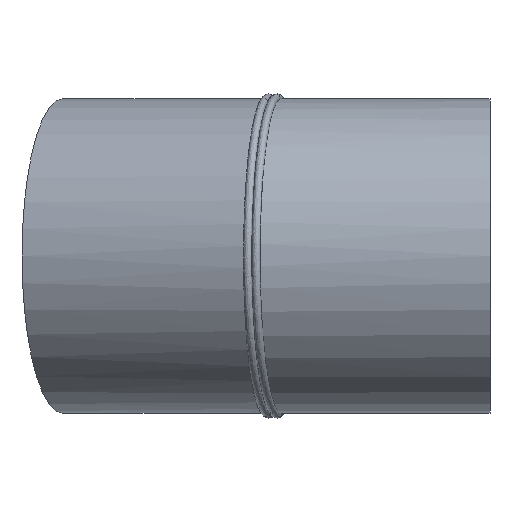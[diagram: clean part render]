
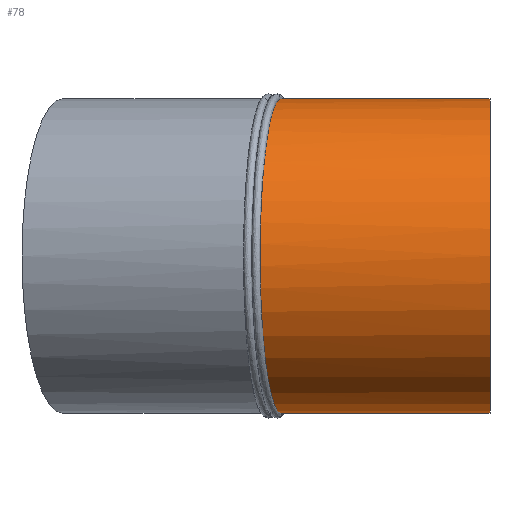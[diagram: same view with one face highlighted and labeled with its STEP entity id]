
A CAD part, left-side view. The second image highlights one B-rep face of the part: STEP entity #78.
In plain terms, the highlighted cylindrical face has radius 280 mm (diameter 560 mm), a full revolution.
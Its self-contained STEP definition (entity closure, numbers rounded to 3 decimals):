
#32=B_SPLINE_CURVE_WITH_KNOTS('',3,(#131,#132,#133,#134,#135,#136,#137,
#138,#139,#140,#141,#142,#143,#144,#145,#146,#147,#148,#149,#150,#151,#152,
#153,#154,#155,#156,#157,#158,#159,#160,#161,#162,#163,#164,#165,#166,#167,
#168,#169,#170,#171,#172,#173,#174,#175,#176,#177,#178,#179,#180,#181,#182,
#183,#184,#185,#186,#187,#188,#189,#190,#191,#192,#193,#194,#195,#196,#197,
#198,#199,#200,#201,#202,#203,#204,#205,#206,#207,#208,#209,#210,#211,#212,
#213,#214,#215,#216,#217,#218,#219,#220,#221,#222,#223,#224,#225,#226,#227,
#228),.UNSPECIFIED.,.T.,.F.,(1,1,1,1,1,1,1,1,1,1,1,1,1,1,1,1,1,1,1,1,1,
1,1,1,1,1,1,1,1,1,1,1,1,1,1,1,1,1,1,1,1,1,1,1,1,1,1,1,1,1,1,1,1,1,1,1,1,
1,1,1,1,1,1,1,1,1,1,1,1,1,1,1,1,1,1,1,1,1,1,1,1,1,1,1,1,1,1,1,1,1,1,1,1,
1,1,1,1,1,1,1,1,1),(-0.055,-0.028,-0.014,
0.,0.028,0.055,0.069,
0.083,0.111,0.139,0.166,
0.194,0.208,0.222,0.236,
0.25,0.263,0.277,0.305,
0.319,0.333,0.347,0.36,
0.374,0.388,0.402,0.416,
0.444,0.458,0.471,0.499,
0.527,0.541,0.555,0.582,
0.61,0.624,0.638,0.652,0.665,
0.679,0.693,0.721,0.735,
0.749,0.776,0.804,0.818,
0.832,0.86,0.887,0.915,
0.929,0.943,0.957,0.97,
0.984,0.998,1.026,1.054,1.068,
1.081,1.109,1.137,1.151,1.165,
1.192,1.22,1.248,1.262,1.275,
1.303,1.317,1.331,1.345,1.359,
1.386,1.4,1.414,1.442,1.47,
1.483,1.497,1.525,1.539,1.553,
1.567,1.58,1.594,1.608,1.622,
1.636,1.664,1.678,1.691,1.719,
1.747,1.761,1.775,1.802,1.83,
1.844),.UNSPECIFIED.);
#34=ORIENTED_EDGE('',*,*,#44,.T.);
#35=ORIENTED_EDGE('',*,*,#45,.F.);
#44=EDGE_CURVE('',#49,#49,#54,.T.);
#45=EDGE_CURVE('',#50,#50,#32,.T.);
#49=VERTEX_POINT('',#130);
#50=VERTEX_POINT('',#229);
#54=CIRCLE('',#99,280.);
#56=EDGE_LOOP('',(#34));
#57=EDGE_LOOP('',(#35));
#66=FACE_BOUND('',#56,.T.);
#67=FACE_BOUND('',#57,.T.);
#76=CYLINDRICAL_SURFACE('',#98,280.);
#78=ADVANCED_FACE('',(#66,#67),#76,.T.);
#98=AXIS2_PLACEMENT_3D('',#128,#109,#110);
#99=AXIS2_PLACEMENT_3D('',#129,#111,#112);
#109=DIRECTION('',(0.,-1.,0.));
#110=DIRECTION('',(0.,0.,-1.));
#111=DIRECTION('',(0.,1.,0.));
#112=DIRECTION('',(1.,0.,0.));
#128=CARTESIAN_POINT('',(0.,650.,0.));
#129=CARTESIAN_POINT('',(0.,0.,0.));
#130=CARTESIAN_POINT('',(280.,0.,0.));
#131=CARTESIAN_POINT('',(13.712,370.044,-279.775));
#132=CARTESIAN_POINT('',(-4.562,372.466,-280.225));
#133=CARTESIAN_POINT('',(-27.507,375.51,-279.096));
#134=CARTESIAN_POINT('',(-50.038,378.503,-275.756));
#135=CARTESIAN_POINT('',(-67.864,380.873,-271.768));
#136=CARTESIAN_POINT('',(-85.555,383.227,-266.884));
#137=CARTESIAN_POINT('',(-107.07,386.093,-259.207));
#138=CARTESIAN_POINT('',(-132.01,389.418,-247.434));
#139=CARTESIAN_POINT('',(-155.357,392.535,-233.473));
#140=CARTESIAN_POINT('',(-173.605,394.974,-220.013));
#141=CARTESIAN_POINT('',(-187.444,396.825,-208.153));
#142=CARTESIAN_POINT('',(-197.464,398.166,-198.674));
#143=CARTESIAN_POINT('',(-207.002,399.443,-188.715));
#144=CARTESIAN_POINT('',(-216.023,400.652,-178.318));
#145=CARTESIAN_POINT('',(-224.541,401.793,-167.467));
#146=CARTESIAN_POINT('',(-235.196,403.222,-152.418));
#147=CARTESIAN_POINT('',(-244.677,404.493,-136.682));
#148=CARTESIAN_POINT('',(-253.013,405.612,-120.201));
#149=CARTESIAN_POINT('',(-258.63,406.366,-107.583));
#150=CARTESIAN_POINT('',(-263.616,407.035,-94.711));
#151=CARTESIAN_POINT('',(-267.976,407.621,-81.564));
#152=CARTESIAN_POINT('',(-271.678,408.118,-68.225));
#153=CARTESIAN_POINT('',(-274.711,408.526,-54.749));
#154=CARTESIAN_POINT('',(-277.08,408.844,-41.117));
#155=CARTESIAN_POINT('',(-279.34,409.148,-22.76));
#156=CARTESIAN_POINT('',(-280.233,409.268,-4.37));
#157=CARTESIAN_POINT('',(-279.757,409.204,14.135));
#158=CARTESIAN_POINT('',(-278.377,409.018,32.454));
#159=CARTESIAN_POINT('',(-274.995,408.564,55.014));
#160=CARTESIAN_POINT('',(-269.439,407.817,77.132));
#161=CARTESIAN_POINT('',(-263.672,407.043,94.555));
#162=CARTESIAN_POINT('',(-257.002,406.147,111.798));
#163=CARTESIAN_POINT('',(-247.146,404.824,132.565));
#164=CARTESIAN_POINT('',(-235.238,403.227,152.352));
#165=CARTESIAN_POINT('',(-224.631,401.805,167.344));
#166=CARTESIAN_POINT('',(-216.114,400.664,178.209));
#167=CARTESIAN_POINT('',(-207.067,399.452,188.644));
#168=CARTESIAN_POINT('',(-197.552,398.178,198.586));
#169=CARTESIAN_POINT('',(-187.557,396.84,208.053));
#170=CARTESIAN_POINT('',(-173.583,394.971,220.037));
#171=CARTESIAN_POINT('',(-158.848,393.002,230.9));
#172=CARTESIAN_POINT('',(-143.284,390.923,240.692));
#173=CARTESIAN_POINT('',(-127.353,388.797,249.653));
#174=CARTESIAN_POINT('',(-106.835,386.061,259.291));
#175=CARTESIAN_POINT('',(-85.505,383.22,266.895));
#176=CARTESIAN_POINT('',(-67.961,380.886,271.743));
#177=CARTESIAN_POINT('',(-50.055,378.505,275.756));
#178=CARTESIAN_POINT('',(-27.471,375.505,279.1));
#179=CARTESIAN_POINT('',(0.026,371.858,280.448));
#180=CARTESIAN_POINT('',(22.828,368.837,279.331));
#181=CARTESIAN_POINT('',(41.035,366.427,277.09));
#182=CARTESIAN_POINT('',(54.543,364.641,274.75));
#183=CARTESIAN_POINT('',(67.918,362.873,271.754));
#184=CARTESIAN_POINT('',(81.178,361.122,268.092));
#185=CARTESIAN_POINT('',(94.224,359.4,263.789));
#186=CARTESIAN_POINT('',(111.285,357.149,257.221));
#187=CARTESIAN_POINT('',(132.069,354.41,247.406));
#188=CARTESIAN_POINT('',(151.698,351.827,235.66));
#189=CARTESIAN_POINT('',(166.749,349.847,225.073));
#190=CARTESIAN_POINT('',(181.163,347.953,213.834));
#191=CARTESIAN_POINT('',(198.004,345.741,198.598));
#192=CARTESIAN_POINT('',(213.299,343.734,181.794));
#193=CARTESIAN_POINT('',(224.588,342.254,167.403));
#194=CARTESIAN_POINT('',(235.247,340.857,152.339));
#195=CARTESIAN_POINT('',(247.097,339.305,132.656));
#196=CARTESIAN_POINT('',(258.99,337.748,107.607));
#197=CARTESIAN_POINT('',(266.764,336.731,85.943));
#198=CARTESIAN_POINT('',(271.702,336.085,68.129));
#199=CARTESIAN_POINT('',(275.725,335.559,50.222));
#200=CARTESIAN_POINT('',(278.417,335.207,32.107));
#201=CARTESIAN_POINT('',(279.773,335.03,13.811));
#202=CARTESIAN_POINT('',(280.114,334.985,-0.031));
#203=CARTESIAN_POINT('',(279.769,335.03,-13.889));
#204=CARTESIAN_POINT('',(278.401,335.209,-32.282));
#205=CARTESIAN_POINT('',(275.662,335.567,-50.592));
#206=CARTESIAN_POINT('',(271.592,336.099,-68.571));
#207=CARTESIAN_POINT('',(266.62,336.75,-86.388));
#208=CARTESIAN_POINT('',(258.84,337.768,-107.944));
#209=CARTESIAN_POINT('',(249.021,339.053,-128.59));
#210=CARTESIAN_POINT('',(239.929,340.244,-144.561));
#211=CARTESIAN_POINT('',(230.015,341.543,-160.13));
#212=CARTESIAN_POINT('',(219.039,342.981,-174.843));
#213=CARTESIAN_POINT('',(206.956,344.566,-188.766));
#214=CARTESIAN_POINT('',(197.425,345.817,-198.712));
#215=CARTESIAN_POINT('',(187.43,347.13,-208.166));
#216=CARTESIAN_POINT('',(176.955,348.506,-217.141));
#217=CARTESIAN_POINT('',(166.063,349.938,-225.58));
#218=CARTESIAN_POINT('',(154.801,351.419,-233.452));
#219=CARTESIAN_POINT('',(143.155,352.951,-240.769));
#220=CARTESIAN_POINT('',(127.132,355.061,-249.769));
#221=CARTESIAN_POINT('',(110.577,357.243,-257.526));
#222=CARTESIAN_POINT('',(93.413,359.507,-264.078));
#223=CARTESIAN_POINT('',(76.085,361.794,-269.732));
#224=CARTESIAN_POINT('',(54.136,364.694,-275.161));
#225=CARTESIAN_POINT('',(31.802,367.649,-278.446));
#226=CARTESIAN_POINT('',(13.712,370.044,-279.775));
#227=CARTESIAN_POINT('',(-4.562,372.466,-280.225));
#228=CARTESIAN_POINT('',(-27.507,375.51,-279.096));
#229=CARTESIAN_POINT('',(0.,371.862,-280.));
